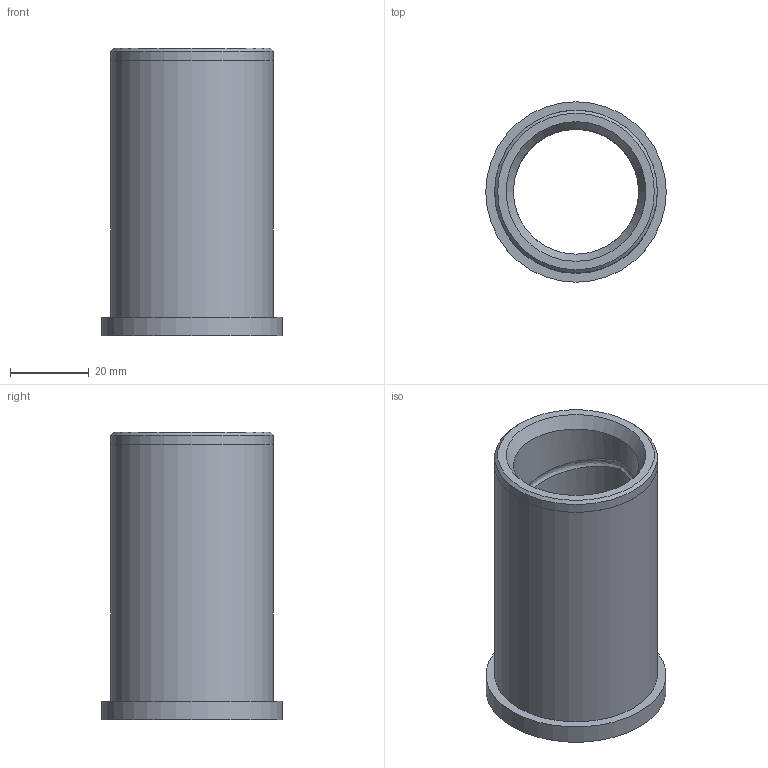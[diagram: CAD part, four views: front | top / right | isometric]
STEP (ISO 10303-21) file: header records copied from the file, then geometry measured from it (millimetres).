
FILE_DESCRIPTION (( 'STEP AP214' ), '1' );
FILE_NAME ('SBF 10-27.step', '2023-05-30T15:41:11', ( '' ), ( '' ), 'SwSTEP 2.0', 'SolidWorks 2017', '' );
FILE_SCHEMA (( 'AUTOMOTIVE_DESIGN' ));
Length unit declared in the file: inch
Products named in the file (1): SBF 10-27
Bounding box: 45.77 x 45.77 x 73.03 mm (x, y, z)
Volume: 40574.9 mm3; surface area: 18398.7 mm2
Topology: 1 solids, 1 shells, 23 faces, 49 edges, 30 vertices
Faces by surface type: cylinder 8, bspline 8, plane 4, cone 3
Full cylindrical faces by diameter (mm): 31.763 x2, 41.25 x1, 41.288 x1, 45.771 x1
Entity records: 3758 total; most frequent: CARTESIAN_POINT 3347, ORIENTED_EDGE 82, DIRECTION 58, EDGE_CURVE 41, EDGE_LOOP 35, VERTEX_POINT 30, AXIS2_PLACEMENT_3D 29, FACE_OUTER_BOUND 28
